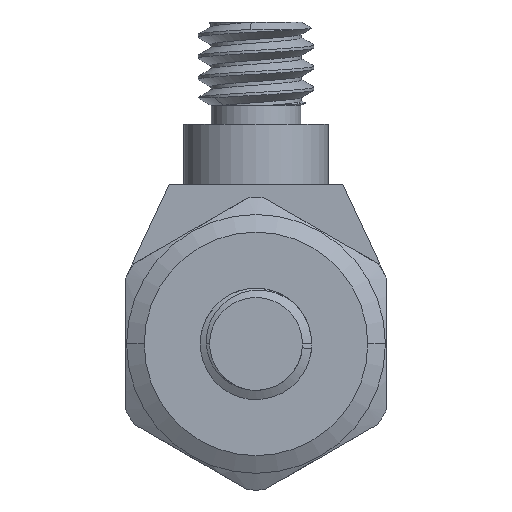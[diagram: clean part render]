
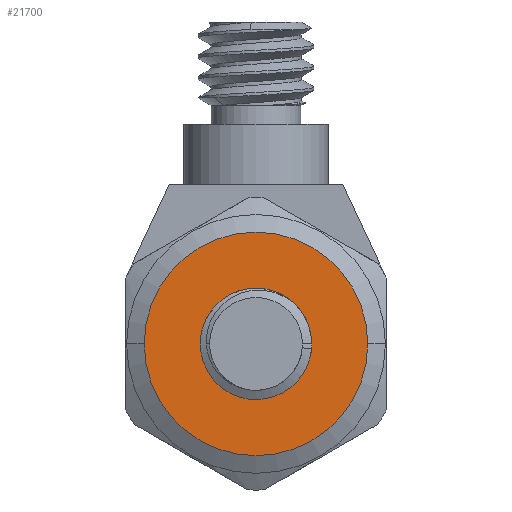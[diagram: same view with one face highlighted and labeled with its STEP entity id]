
A CAD part, front view. The second image highlights one B-rep face of the part: STEP entity #21700.
In plain terms, the highlighted planar face has unit normal (0, -1, 0).
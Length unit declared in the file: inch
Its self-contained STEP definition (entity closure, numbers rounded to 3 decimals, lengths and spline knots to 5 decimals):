
#334 = AXIS2_PLACEMENT_3D ( 'NONE', #7147, #19744, #8962 ) ;
#2275 = DIRECTION ( 'NONE',  ( 0., 1., 0. ) ) ;
#2606 = CIRCLE ( 'NONE', #18305, 0.0435 ) ;
#2859 = EDGE_CURVE ( 'NONE', #3338, #16887, #3864, .T. ) ;
#3065 = AXIS2_PLACEMENT_3D ( 'NONE', #20924, #3101, #9959 ) ;
#3101 = DIRECTION ( 'NONE',  ( 0., 1., 0. ) ) ;
#3338 = VERTEX_POINT ( 'NONE', #9388 ) ;
#3864 = CIRCLE ( 'NONE', #3065, 0.12045 ) ;
#4360 = CARTESIAN_POINT ( 'NONE',  ( 0., -0.177, 0. ) ) ;
#5684 = VERTEX_POINT ( 'NONE', #19736 ) ;
#6134 = DIRECTION ( 'NONE',  ( -1., 0., 0. ) ) ;
#6187 = DIRECTION ( 'NONE',  ( 0., 1., 0. ) ) ;
#6358 = ORIENTED_EDGE ( 'NONE', *, *, #13492, .T. ) ;
#7147 = CARTESIAN_POINT ( 'NONE',  ( 0., -0.177, 0.12045 ) ) ;
#8962 = DIRECTION ( 'NONE',  ( -1., 0., 0. ) ) ;
#9388 = CARTESIAN_POINT ( 'NONE',  ( -0.12045, -0.177, 0. ) ) ;
#9485 = ORIENTED_EDGE ( 'NONE', *, *, #11036, .F. ) ;
#9959 = DIRECTION ( 'NONE',  ( -1., 0., 0. ) ) ;
#11036 = EDGE_CURVE ( 'NONE', #16887, #3338, #19731, .T. ) ;
#11053 = PLANE ( 'NONE',  #334 ) ;
#11085 = CARTESIAN_POINT ( 'NONE',  ( 0.12045, -0.177, 0. ) ) ;
#12511 = CIRCLE ( 'NONE', #14357, 0.0435 ) ;
#12979 = CARTESIAN_POINT ( 'NONE',  ( 0., -0.177, 0. ) ) ;
#13382 = ORIENTED_EDGE ( 'NONE', *, *, #20107, .T. ) ;
#13492 = EDGE_CURVE ( 'NONE', #22253, #5684, #12511, .T. ) ;
#13583 = FACE_OUTER_BOUND ( 'NONE', #17828, .T. ) ;
#14357 = AXIS2_PLACEMENT_3D ( 'NONE', #12979, #2275, #14786 ) ;
#14786 = DIRECTION ( 'NONE',  ( -1., 0., 0. ) ) ;
#14795 = AXIS2_PLACEMENT_3D ( 'NONE', #16976, #6187, #18731 ) ;
#16237 = CARTESIAN_POINT ( 'NONE',  ( 0.0435, -0.177, 0. ) ) ;
#16887 = VERTEX_POINT ( 'NONE', #11085 ) ;
#16918 = DIRECTION ( 'NONE',  ( 0., 1., 0. ) ) ;
#16976 = CARTESIAN_POINT ( 'NONE',  ( 0., -0.177, 0. ) ) ;
#17095 = ORIENTED_EDGE ( 'NONE', *, *, #2859, .F. ) ;
#17828 = EDGE_LOOP ( 'NONE', ( #17095, #9485 ) ) ;
#18305 = AXIS2_PLACEMENT_3D ( 'NONE', #4360, #16918, #6134 ) ;
#18731 = DIRECTION ( 'NONE',  ( -1., 0., 0. ) ) ;
#19731 = CIRCLE ( 'NONE', #14795, 0.12045 ) ;
#19736 = CARTESIAN_POINT ( 'NONE',  ( -0.0435, -0.177, 0. ) ) ;
#19744 = DIRECTION ( 'NONE',  ( 0., 1., 0. ) ) ;
#20107 = EDGE_CURVE ( 'NONE', #5684, #22253, #2606, .T. ) ;
#20245 = EDGE_LOOP ( 'NONE', ( #13382, #6358 ) ) ;
#20924 = CARTESIAN_POINT ( 'NONE',  ( 0., -0.177, 0. ) ) ;
#21700 = ADVANCED_FACE ( 'NONE', ( #13583, #23157 ), #11053, .F. ) ;
#22253 = VERTEX_POINT ( 'NONE', #16237 ) ;
#23157 = FACE_BOUND ( 'NONE', #20245, .T. ) ;
